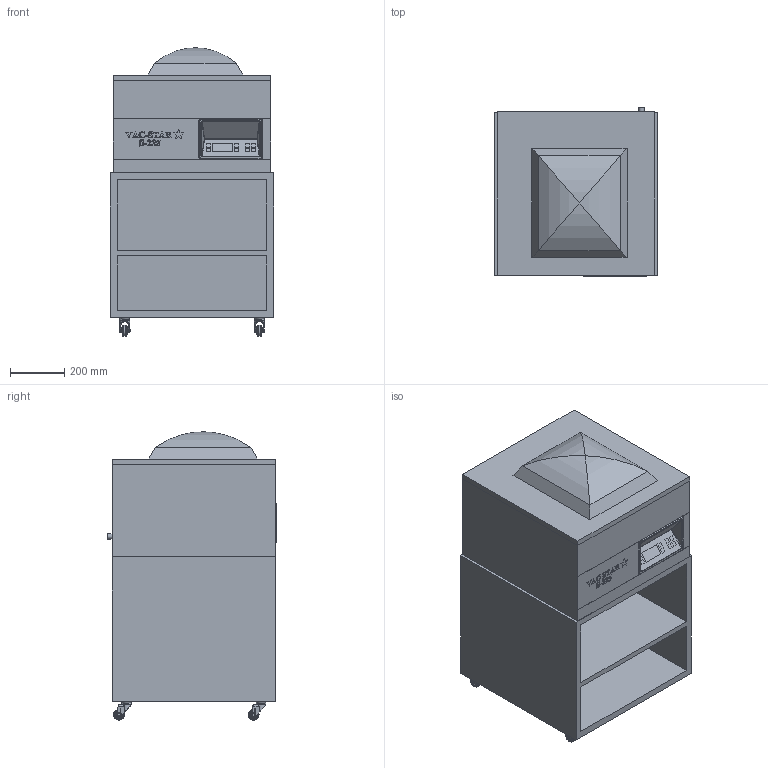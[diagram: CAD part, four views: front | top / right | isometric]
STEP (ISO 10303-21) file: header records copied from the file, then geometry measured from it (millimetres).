
FILE_DESCRIPTION(/* description */ ('Unknown'),/* implementation_level */ '2;1');
FILE_NAME(/* name */ 'C3D-S225-mit-Unterbau-L_AA',/* time_stamp */ '2021-10-22T10:37:25+02:00',/* author */ ('Unknown'),/* organization */ ('Unknown'),/* preprocessor_version */ 'ST-DEVELOPER v16.7',/* originating_system */ 'Solid Edge',/* authorisation */ 'Unknown');
FILE_SCHEMA (('AUTOMOTIVE_DESIGN {1 0 10303 214 3 1 1}'));
Length unit declared in the file: millimetre
Products named in the file (8): R-VAC-STAR-S225-m.U.; R-VAC-STAR-UnterbauL; R-VAC-STAR-S225; 310X PT 50 EL; 310X PT 50 EL_body; 310X PT 50 EL_shaft; 50 EL-6-X; 310X PT 50 EL_plate
Assembly tree (10 placements, depth 3):
  R-VAC-STAR-S225-m.U.
    R-VAC-STAR-UnterbauL
    R-VAC-STAR-S225
    310X PT 50 EL  x4
      310X PT 50 EL_body
      310X PT 50 EL_shaft
      50 EL-6-X
      310X PT 50 EL_plate
Bounding box: 600 x 618.01 x 1060 mm (x, y, z)
Volume: 145458349.1 mm3; surface area: 6445058.4 mm2
Topology: 19 solids, 19 shells, 1559 faces, 3774 edges, 2436 vertices
Faces by surface type: plane 897, cylinder 354, cone 128, torus 116, bspline 38, sphere 26
Full cylindrical faces by diameter (mm): 0.025 x4, 0.1 x4, 1.2 x4, 1.25 x4, 6 x20, 7 x8, 7.8 x8, 9 x8, 10.8 x8, 13 x4, 20 x1, 21 x8, 30 x4, 34.5 x8, 36 x12, 37.5 x8, 39.5 x8, 40 x12
Entity records: 23009 total; most frequent: CARTESIAN_POINT 7261, ORIENTED_EDGE 2746, DIRECTION 2562, EDGE_CURVE 1373, VERTEX_POINT 930, LINE 856, VECTOR 856, AXIS2_PLACEMENT_3D 853
